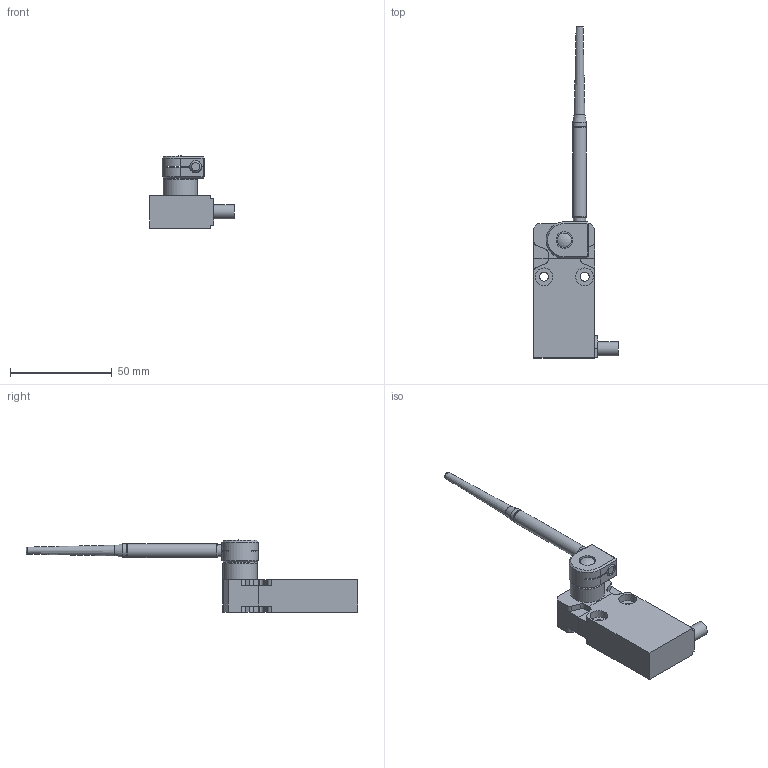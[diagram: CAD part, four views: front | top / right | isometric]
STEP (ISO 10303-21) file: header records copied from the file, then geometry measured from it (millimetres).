
FILE_DESCRIPTION(/* description */ (''),/* implementation_level */ '2;1');
FILE_NAME(/* name */ 'C:\Users\servizio.tecnico\Desktop\CADENAS\3D\EP1_STP\STP_EP1_G61U.stp',/* time_stamp */ '2017-09-01T08:36:56+02:00',/* author */ ('servizio.tecnico'),/* organization */ (''),/* preprocessor_version */ 'ST-DEVELOPER v16.1',/* originating_system */ 'Autodesk Inventor 2016',/* authorisation */ '');
FILE_SCHEMA (('AUTOMOTIVE_DESIGN { 1 0 10303 214 3 1 1 }'));
Length unit declared in the file: millimetre
Products named in the file (3): Product; EP1G61; BASE ASSI 
Assembly tree (2 placements, depth 3):
  BASE ASSI 
    EP1G61
      Product
Bounding box: 41.5 x 163.5 x 35.58 mm (x, y, z)
Volume: 37458.4 mm3; surface area: 13725 mm2
Topology: 4 solids, 4 shells, 134 faces, 331 edges, 216 vertices
Faces by surface type: plane 86, cylinder 38, cone 5, torus 4, sphere 1
Full cylindrical faces by diameter (mm): 4.4 x2, 6 x1, 6.8 x2, 7 x2, 8.2 x1, 8.7 x4, 11 x1, 17 x1
Entity records: 3926 total; most frequent: DIRECTION 672, CARTESIAN_POINT 653, ORIENTED_EDGE 608, EDGE_CURVE 304, AXIS2_PLACEMENT_3D 229, LINE 214, VECTOR 214, VERTEX_POINT 210
